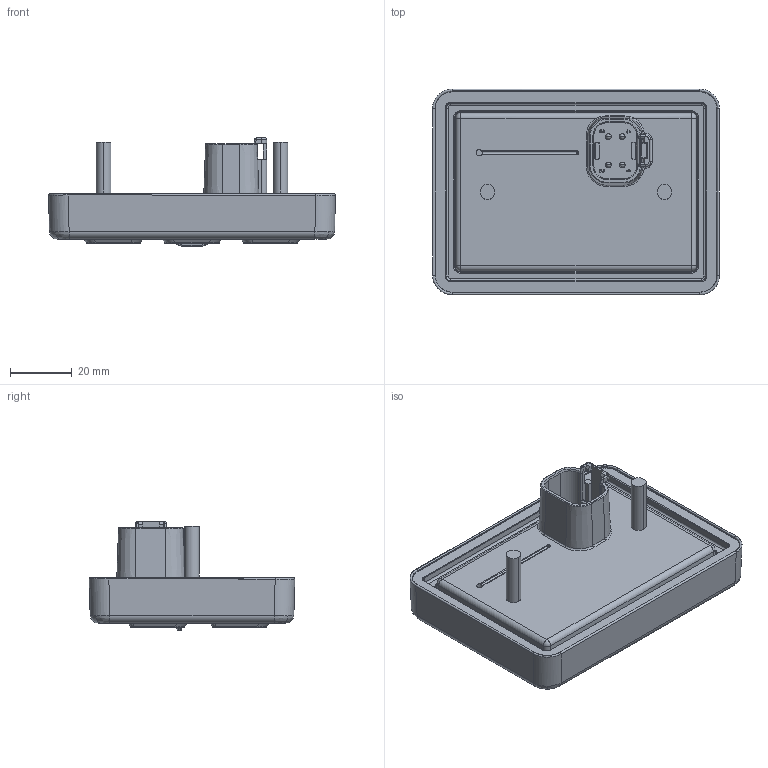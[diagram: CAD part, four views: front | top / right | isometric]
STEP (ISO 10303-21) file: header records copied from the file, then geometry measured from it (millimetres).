
FILE_DESCRIPTION (( 'STEP AP214' ), '1' );
FILE_NAME ('CL-6023_2X3_05MAR2025.STEP', '2025-03-05T18:03:12', ( '' ), ( '' ), 'SwSTEP 2.0', 'SolidWorks 2024', '' );
FILE_SCHEMA (( 'AUTOMOTIVE_DESIGN' ));
Length unit declared in the file: inch
Products named in the file (14): CL-6023_2X3_05MAR2025; CL-6023-502; 175-0314-S0-G; PM-063-400-G; 415-11-618; 485-15-604; 186-23-600_02; 175-0314-S0-G_PIN; 186-23-600; CL-6023-501; 186-23-600_01; 171-02-624; CL-6023-500
Assembly tree (16 placements, depth 4):
  CL-6023_2X3_05MAR2025
    186-23-600
      186-23-600_01
      186-23-600_02
    CL-6023-502
      CL-6023-500
        CL-6023-501
        415-11-618  x2
      485-15-604
    PM-063-400-G
      175-0314-S0-G
        175-0314-S0-G
        175-0314-S0-G_PIN  x4
  171-02-624
Bounding box: 92.69 x 66.4 x 35 mm (x, y, z)
Volume: 51136.2 mm3; surface area: 51360.6 mm2
Topology: 12 solids, 18 shells, 5227 faces, 12978 edges, 7839 vertices
Faces by surface type: plane 1656, cylinder 1438, bspline 968, cone 648, torus 316, sphere 201
Entity records: 174006 total; most frequent: CARTESIAN_POINT 60582, ORIENTED_EDGE 24866, DIRECTION 22678, EDGE_CURVE 12433, AXIS2_PLACEMENT_3D 8351, VERTEX_POINT 7555, VECTOR 5976, LINE 5976
